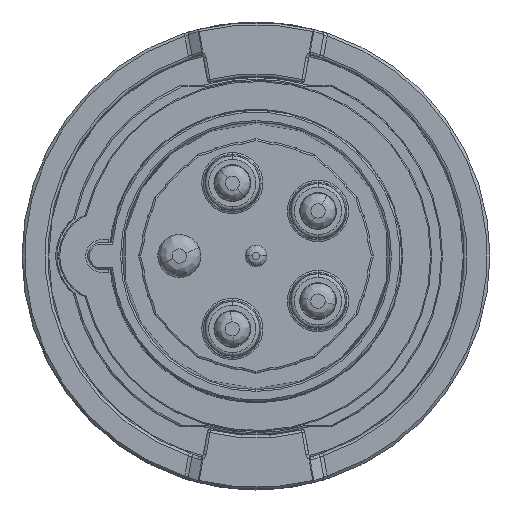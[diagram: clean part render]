
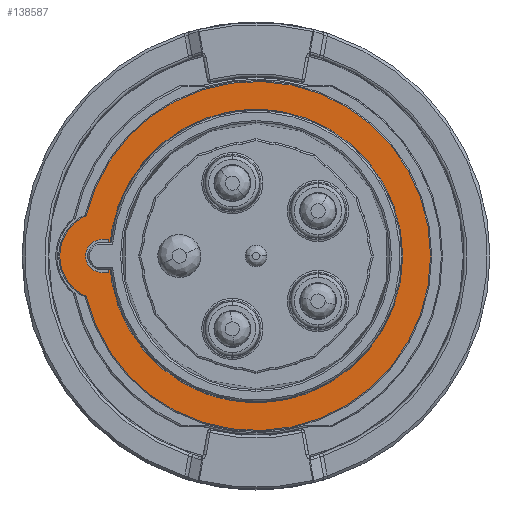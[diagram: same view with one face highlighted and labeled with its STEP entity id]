
A CAD part, left-side view. The second image highlights one B-rep face of the part: STEP entity #138587.
In plain terms, the highlighted planar face has unit normal (-1, 0, 0).
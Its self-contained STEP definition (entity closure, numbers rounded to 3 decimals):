
#36912=CARTESIAN_POINT('',(-24.8,42.2,0.));
#36913=DIRECTION('',(-1.,0.,0.));
#36914=DIRECTION('',(0.,0.401,0.916));
#36915=AXIS2_PLACEMENT_3D('',#36912,#36913,#36914);
#36917=CARTESIAN_POINT('',(-24.8,0.,0.));
#36918=DIRECTION('',(1.,0.,0.));
#36919=DIRECTION('',(0.,0.973,0.231));
#36920=AXIS2_PLACEMENT_3D('',#36917,#36918,#36919);
#36922=CARTESIAN_POINT('',(-24.8,0.,0.));
#36923=DIRECTION('',(-1.,0.,0.));
#36924=DIRECTION('',(0.,-1.,0.));
#36925=AXIS2_PLACEMENT_3D('',#36922,#36923,#36924);
#36927=CARTESIAN_POINT('',(-24.8,0.,0.));
#36928=DIRECTION('',(-1.,0.,0.));
#36929=DIRECTION('',(0.,1.,0.));
#36930=AXIS2_PLACEMENT_3D('',#36927,#36928,#36929);
#36932=DIRECTION('',(0.,1.,0.));
#36933=VECTOR('',#36932,1.859);
#36934=CARTESIAN_POINT('',(-24.8,40.791,4.6));
#36935=LINE('10167',#36934,#36933);
#36936=CARTESIAN_POINT('',(-24.8,42.65,0.));
#36937=DIRECTION('',(-1.,0.,0.));
#36938=DIRECTION('',(0.,0.,1.));
#36939=AXIS2_PLACEMENT_3D('',#36936,#36937,#36938);
#36941=DIRECTION('',(0.,-1.,0.));
#36942=VECTOR('',#36941,1.859);
#36943=CARTESIAN_POINT('',(-24.8,42.65,-4.6));
#36944=LINE('10168',#36943,#36942);
#52473=CARTESIAN_POINT('',(-24.8,0.,0.));
#52474=DIRECTION('',(1.,0.,0.));
#52475=DIRECTION('',(0.,0.994,-0.112));
#52476=AXIS2_PLACEMENT_3D('',#52473,#52474,#52475);
#57654=CARTESIAN_POINT('',(-24.8,-40.65,0.));
#57655=CARTESIAN_POINT('',(-24.8,40.65,0.));
#57656=VERTEX_POINT('',#57654);
#57657=VERTEX_POINT('',#57655);
#59246=CARTESIAN_POINT('',(-24.8,42.65,4.6));
#59247=CARTESIAN_POINT('',(-24.8,42.65,-4.6));
#59248=VERTEX_POINT('',#59246);
#59249=VERTEX_POINT('',#59247);
#59254=CARTESIAN_POINT('',(-24.8,47.092,11.176));
#59255=CARTESIAN_POINT('',(-24.8,47.092,-11.176));
#59256=VERTEX_POINT('',#59254);
#59257=VERTEX_POINT('',#59255);
#59270=CARTESIAN_POINT('',(-24.8,40.791,4.6));
#59271=VERTEX_POINT('',#59270);
#59272=CARTESIAN_POINT('',(-24.8,40.791,-4.6));
#59273=VERTEX_POINT('',#59272);
#138562=CARTESIAN_POINT('',(-24.8,0.,0.));
#138563=DIRECTION('',(1.,0.,0.));
#138564=DIRECTION('',(0.,0.,-1.));
#138565=AXIS2_PLACEMENT_3D('',#138562,#138563,#138564);
#138566=PLANE('2208',#138565);
#138567=ORIENTED_EDGE('10151',*,*,#138528,.F.);
#138568=ORIENTED_EDGE('10152',*,*,#138547,.T.);
#138569=EDGE_LOOP('2208',(#138567,#138568));
#138570=FACE_OUTER_BOUND('2208',#138569,.F.);
#138572=ORIENTED_EDGE('8689',*,*,#138571,.T.);
#138574=ORIENTED_EDGE('8690',*,*,#138573,.T.);
#138575=EDGE_LOOP('2208',(#138572,#138574));
#138576=FACE_BOUND('2208',#138575,.F.);
#138578=ORIENTED_EDGE('10163',*,*,#138577,.T.);
#138580=ORIENTED_EDGE('10167',*,*,#138579,.T.);
#138582=ORIENTED_EDGE('10149',*,*,#138581,.T.);
#138584=ORIENTED_EDGE('10168',*,*,#138583,.T.);
#138585=EDGE_LOOP('2208',(#138578,#138580,#138582,#138584));
#138586=FACE_BOUND('2208',#138585,.F.);
#36916=CIRCLE('10151',#36915,12.2);
#36921=CIRCLE('10152',#36920,48.4);
#36926=CIRCLE('8689',#36925,40.65);
#36931=CIRCLE('8690',#36930,40.65);
#36940=CIRCLE('10149',#36939,4.6);
#52477=CIRCLE('10163',#52476,41.05);
#138528=EDGE_CURVE('10151',#59256,#59257,#36916,.T.);
#138547=EDGE_CURVE('10152',#59256,#59257,#36921,.T.);
#138571=EDGE_CURVE('8689',#57656,#57657,#36926,.T.);
#138573=EDGE_CURVE('8690',#57657,#57656,#36931,.T.);
#138577=EDGE_CURVE('10163',#59273,#59271,#52477,.T.);
#138579=EDGE_CURVE('10167',#59271,#59248,#36935,.T.);
#138581=EDGE_CURVE('10149',#59248,#59249,#36940,.T.);
#138583=EDGE_CURVE('10168',#59249,#59273,#36944,.T.);
#138587=ADVANCED_FACE('2208',(#138570,#138576,#138586),#138566,.F.);
